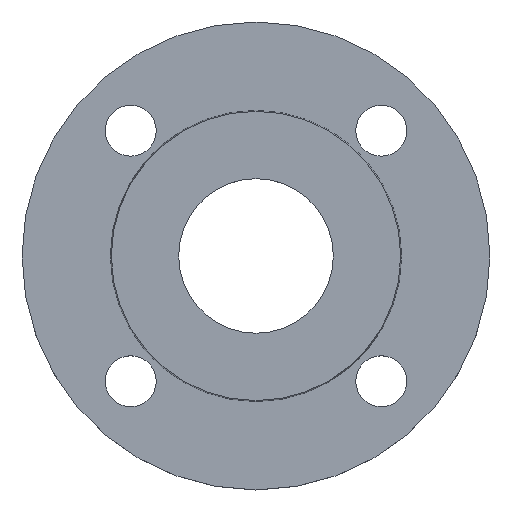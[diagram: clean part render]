
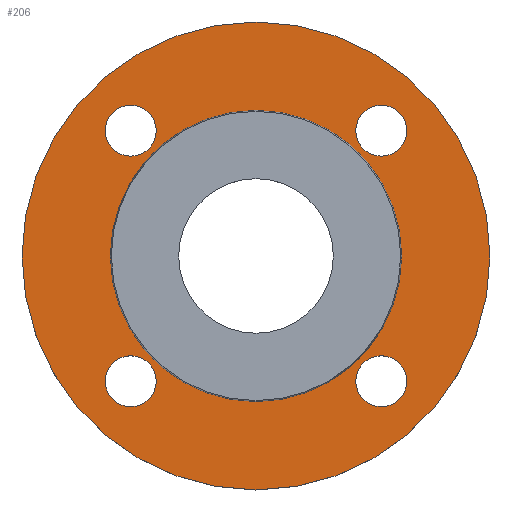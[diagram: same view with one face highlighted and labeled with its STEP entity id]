
A CAD part, top view. The second image highlights one B-rep face of the part: STEP entity #206.
In plain terms, the highlighted planar face has unit normal (0, 0, 1).
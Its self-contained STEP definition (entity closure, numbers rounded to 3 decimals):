
#8 = AXIS2_PLACEMENT_3D ( 'NONE', #29, #30, #23 ) ;
#23 = DIRECTION ( 'NONE',  ( 1., 0., 0. ) ) ;
#24 = EDGE_CURVE ( 'NONE', #577, #566, #555, .T. ) ;
#26 = EDGE_CURVE ( 'NONE', #241, #585, #119, .T. ) ;
#28 = CARTESIAN_POINT ( 'NONE',  ( 35.194, -44.194, -2. ) ) ;
#29 = CARTESIAN_POINT ( 'NONE',  ( 44.194, 44.194, -2. ) ) ;
#30 = DIRECTION ( 'NONE',  ( 0., 0., -1. ) ) ;
#52 = CARTESIAN_POINT ( 'NONE',  ( -51.353, 0., -2. ) ) ;
#54 = CARTESIAN_POINT ( 'NONE',  ( -35.194, -44.194, -2. ) ) ;
#60 = DIRECTION ( 'NONE',  ( 1., 0., 0. ) ) ;
#61 = DIRECTION ( 'NONE',  ( 0., 0., 1. ) ) ;
#62 = CARTESIAN_POINT ( 'NONE',  ( 51.353, 0., -2. ) ) ;
#63 = PLANE ( 'NONE',  #666 ) ;
#64 = FACE_OUTER_BOUND ( 'NONE', #379, .T. ) ;
#65 = FACE_BOUND ( 'NONE', #296, .T. ) ;
#66 = FACE_BOUND ( 'NONE', #294, .T. ) ;
#67 = FACE_BOUND ( 'NONE', #286, .T. ) ;
#68 = FACE_BOUND ( 'NONE', #237, .T. ) ;
#69 = FACE_BOUND ( 'NONE', #225, .T. ) ;
#74 = DIRECTION ( 'NONE',  ( 1., 0., 0. ) ) ;
#75 = AXIS2_PLACEMENT_3D ( 'NONE', #77, #76, #74 ) ;
#76 = DIRECTION ( 'NONE',  ( 0., 0., -1. ) ) ;
#77 = CARTESIAN_POINT ( 'NONE',  ( -44.194, -44.194, -2. ) ) ;
#83 = AXIS2_PLACEMENT_3D ( 'NONE', #142, #141, #135 ) ;
#90 = VERTEX_POINT ( 'NONE', #158 ) ;
#110 = DIRECTION ( 'NONE',  ( 1., 0., 0. ) ) ;
#112 = DIRECTION ( 'NONE',  ( 0., 0., -1. ) ) ;
#113 = CARTESIAN_POINT ( 'NONE',  ( 44.194, -44.194, -2. ) ) ;
#119 = CIRCLE ( 'NONE', #653, 9. ) ;
#135 = DIRECTION ( 'NONE',  ( -1., 0., 0. ) ) ;
#141 = DIRECTION ( 'NONE',  ( 0., 0., -1. ) ) ;
#142 = CARTESIAN_POINT ( 'NONE',  ( 0., 0., -2. ) ) ;
#158 = CARTESIAN_POINT ( 'NONE',  ( 51.353, 0., -2. ) ) ;
#174 = EDGE_CURVE ( 'NONE', #305, #564, #516, .T. ) ;
#183 = DIRECTION ( 'NONE',  ( 1., 0., 0. ) ) ;
#189 = DIRECTION ( 'NONE',  ( 0., 0., -1. ) ) ;
#191 = CARTESIAN_POINT ( 'NONE',  ( -44.194, -44.194, -2. ) ) ;
#193 = DIRECTION ( 'NONE',  ( 1., 0., 0. ) ) ;
#194 = DIRECTION ( 'NONE',  ( 0., 0., -1. ) ) ;
#198 = CIRCLE ( 'NONE', #83, 82.5 ) ;
#200 = CARTESIAN_POINT ( 'NONE',  ( -44.194, 44.194, -2. ) ) ;
#206 = ADVANCED_FACE ( 'NONE', ( #69, #68, #67, #66, #65, #64 ), #63, .T. ) ;
#209 = CARTESIAN_POINT ( 'NONE',  ( 82.5, 0., -2. ) ) ;
#223 = DIRECTION ( 'NONE',  ( 1., 0., 0. ) ) ;
#224 = DIRECTION ( 'NONE',  ( 0., 0., -1. ) ) ;
#225 = EDGE_LOOP ( 'NONE', ( #391, #404 ) ) ;
#227 = CARTESIAN_POINT ( 'NONE',  ( -44.194, 44.194, -2. ) ) ;
#230 = DIRECTION ( 'NONE',  ( -1., 0., 0. ) ) ;
#231 = DIRECTION ( 'NONE',  ( 0., 0., -1. ) ) ;
#234 = CARTESIAN_POINT ( 'NONE',  ( 0., 0., -2. ) ) ;
#237 = EDGE_LOOP ( 'NONE', ( #399, #386 ) ) ;
#241 = VERTEX_POINT ( 'NONE', #54 ) ;
#246 = CARTESIAN_POINT ( 'NONE',  ( -82.5, 0., -2. ) ) ;
#247 = DIRECTION ( 'NONE',  ( 1., 0., 0. ) ) ;
#254 = ORIENTED_EDGE ( 'NONE', *, *, #637, .F. ) ;
#257 = CARTESIAN_POINT ( 'NONE',  ( -53.194, -44.194, -2. ) ) ;
#262 = AXIS2_PLACEMENT_3D ( 'NONE', #488, #487, #247 ) ;
#273 = CARTESIAN_POINT ( 'NONE',  ( -35.194, 44.194, -2. ) ) ;
#276 = CARTESIAN_POINT ( 'NONE',  ( 35.194, 44.194, -2. ) ) ;
#285 = CARTESIAN_POINT ( 'NONE',  ( -53.194, 44.194, -2. ) ) ;
#286 = EDGE_LOOP ( 'NONE', ( #381, #411 ) ) ;
#288 = VERTEX_POINT ( 'NONE', #52 ) ;
#292 = CARTESIAN_POINT ( 'NONE',  ( 53.194, -44.194, -2. ) ) ;
#294 = EDGE_LOOP ( 'NONE', ( #419, #587 ) ) ;
#296 = EDGE_LOOP ( 'NONE', ( #589, #425 ) ) ;
#305 = VERTEX_POINT ( 'NONE', #28 ) ;
#319 = EDGE_CURVE ( 'NONE', #576, #517, #567, .T. ) ;
#341 = DIRECTION ( 'NONE',  ( -1., 0., 0. ) ) ;
#342 = DIRECTION ( 'NONE',  ( 0., 0., -1. ) ) ;
#345 = CARTESIAN_POINT ( 'NONE',  ( 0., 0., -2. ) ) ;
#346 = CARTESIAN_POINT ( 'NONE',  ( 53.194, 44.194, -2. ) ) ;
#379 = EDGE_LOOP ( 'NONE', ( #254, #438 ) ) ;
#380 = CIRCLE ( 'NONE', #75, 9. ) ;
#381 = ORIENTED_EDGE ( 'NONE', *, *, #24, .T. ) ;
#386 = ORIENTED_EDGE ( 'NONE', *, *, #658, .T. ) ;
#391 = ORIENTED_EDGE ( 'NONE', *, *, #482, .T. ) ;
#393 = DIRECTION ( 'NONE',  ( 1., 0., 0. ) ) ;
#394 = EDGE_CURVE ( 'NONE', #517, #576, #631, .T. ) ;
#398 = CARTESIAN_POINT ( 'NONE',  ( 44.194, -44.194, -2. ) ) ;
#399 = ORIENTED_EDGE ( 'NONE', *, *, #26, .T. ) ;
#400 = DIRECTION ( 'NONE',  ( 0., 0., -1. ) ) ;
#404 = ORIENTED_EDGE ( 'NONE', *, *, #174, .T. ) ;
#411 = ORIENTED_EDGE ( 'NONE', *, *, #603, .T. ) ;
#417 = CARTESIAN_POINT ( 'NONE',  ( 0., 0., -2. ) ) ;
#419 = ORIENTED_EDGE ( 'NONE', *, *, #394, .T. ) ;
#425 = ORIENTED_EDGE ( 'NONE', *, *, #601, .T. ) ;
#438 = ORIENTED_EDGE ( 'NONE', *, *, #448, .F. ) ;
#448 = EDGE_CURVE ( 'NONE', #588, #620, #635, .T. ) ;
#451 = DIRECTION ( 'NONE',  ( 0., 0., -1. ) ) ;
#482 = EDGE_CURVE ( 'NONE', #564, #305, #598, .T. ) ;
#483 = DIRECTION ( 'NONE',  ( -1., 0., 0. ) ) ;
#487 = DIRECTION ( 'NONE',  ( 0., 0., -1. ) ) ;
#488 = CARTESIAN_POINT ( 'NONE',  ( 44.194, 44.194, -2. ) ) ;
#516 = CIRCLE ( 'NONE', #612, 9. ) ;
#517 = VERTEX_POINT ( 'NONE', #346 ) ;
#524 = EDGE_CURVE ( 'NONE', #288, #90, #625, .T. ) ;
#555 = CIRCLE ( 'NONE', #559, 9. ) ;
#559 = AXIS2_PLACEMENT_3D ( 'NONE', #200, #194, #193 ) ;
#564 = VERTEX_POINT ( 'NONE', #292 ) ;
#566 = VERTEX_POINT ( 'NONE', #285 ) ;
#567 = CIRCLE ( 'NONE', #8, 9. ) ;
#576 = VERTEX_POINT ( 'NONE', #276 ) ;
#577 = VERTEX_POINT ( 'NONE', #273 ) ;
#585 = VERTEX_POINT ( 'NONE', #257 ) ;
#587 = ORIENTED_EDGE ( 'NONE', *, *, #319, .T. ) ;
#588 = VERTEX_POINT ( 'NONE', #246 ) ;
#589 = ORIENTED_EDGE ( 'NONE', *, *, #524, .T. ) ;
#598 = CIRCLE ( 'NONE', #618, 9. ) ;
#601 = EDGE_CURVE ( 'NONE', #90, #288, #636, .T. ) ;
#602 = AXIS2_PLACEMENT_3D ( 'NONE', #234, #231, #230 ) ;
#603 = EDGE_CURVE ( 'NONE', #566, #577, #614, .T. ) ;
#607 = AXIS2_PLACEMENT_3D ( 'NONE', #417, #451, #483 ) ;
#612 = AXIS2_PLACEMENT_3D ( 'NONE', #113, #112, #110 ) ;
#614 = CIRCLE ( 'NONE', #667, 9. ) ;
#618 = AXIS2_PLACEMENT_3D ( 'NONE', #398, #400, #393 ) ;
#620 = VERTEX_POINT ( 'NONE', #209 ) ;
#625 = CIRCLE ( 'NONE', #634, 51.353 ) ;
#631 = CIRCLE ( 'NONE', #262, 9. ) ;
#634 = AXIS2_PLACEMENT_3D ( 'NONE', #345, #342, #341 ) ;
#635 = CIRCLE ( 'NONE', #607, 82.5 ) ;
#636 = CIRCLE ( 'NONE', #602, 51.353 ) ;
#637 = EDGE_CURVE ( 'NONE', #620, #588, #198, .T. ) ;
#653 = AXIS2_PLACEMENT_3D ( 'NONE', #191, #189, #183 ) ;
#658 = EDGE_CURVE ( 'NONE', #585, #241, #380, .T. ) ;
#666 = AXIS2_PLACEMENT_3D ( 'NONE', #62, #61, #60 ) ;
#667 = AXIS2_PLACEMENT_3D ( 'NONE', #227, #224, #223 ) ;
